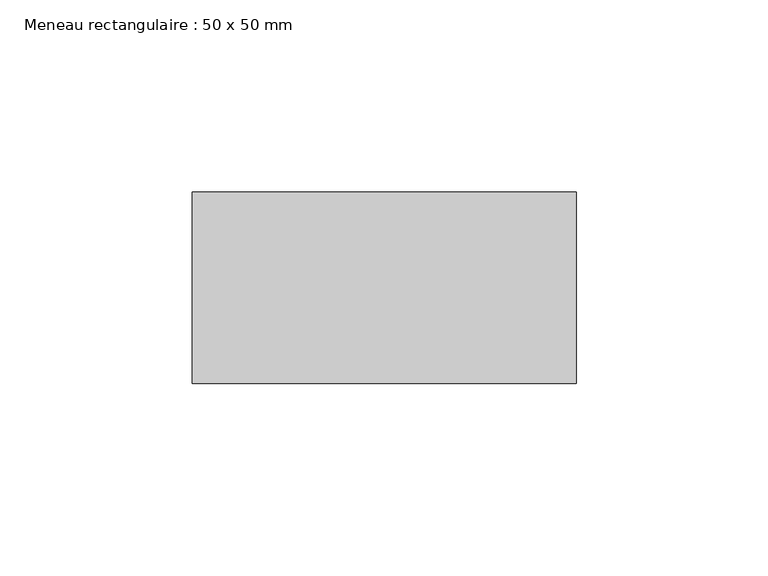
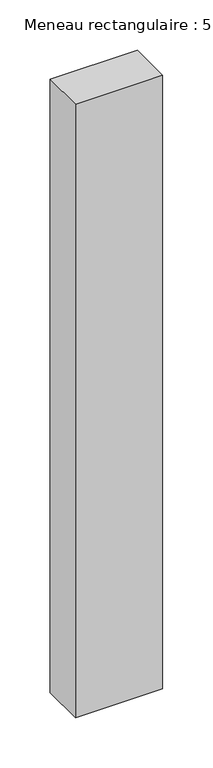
"""IFC4 building model written with IfcOpenShell, lengths in millimetres: member geometry, Meneau rectangulaire : 50 x 50 mm."""

from ifc_helpers import new_model, si_unit, frame, origin, place, context, project, spatial, polyline, outline, extrude, source, transform, mapped, element, save


def meneau_rectangulaire_50_x_50_mm_bdcf768f(model_context):
    return source(origin(), model_context, "Body", "SweptSolid", [
        extrude(outline(polyline([(0.0, 50.0), (0.0, 0.0), (-100.0, 0.0), (-100.0, 50.0), (0.0, 50.0)])), frame((0.0, 0.0, -742.5269779), z_axis=(0.0, 0.0, 1.0), x_axis=(1.0, 0.0, 0.0)), (0.0, 0.0, 1.0), 742.5269779),
    ])


if __name__ == "__main__":
    model = new_model("IFC4")
    model_context = context("Model", 3, world=origin())
    ifc_project = project(units=[si_unit("LENGTHUNIT", "METRE", prefix="MILLI")], contexts=[model_context])
    site = spatial("IfcSite", under=ifc_project)
    building = spatial("IfcBuilding", under=site)
    placement = place(None, origin())
    meneau_rectangulaire_50_x_50_mm_shape = meneau_rectangulaire_50_x_50_mm_bdcf768f(model_context)
    element("IfcMember", 1, ObjectType="Meneau rectangulaire : 50 x 50 mm", at=placement, inside=building, context=model_context, shape_type="MappedRepresentation", body=[
        mapped(meneau_rectangulaire_50_x_50_mm_shape, transform((0.0, 0.0, 0.0), x_axis=(1.0, 0.0, 0.0), y_axis=(0.0, 1.0, 0.0), z_axis=(0.0, 0.0, 1.0))),
    ])
    save(model, "model.ifc")
